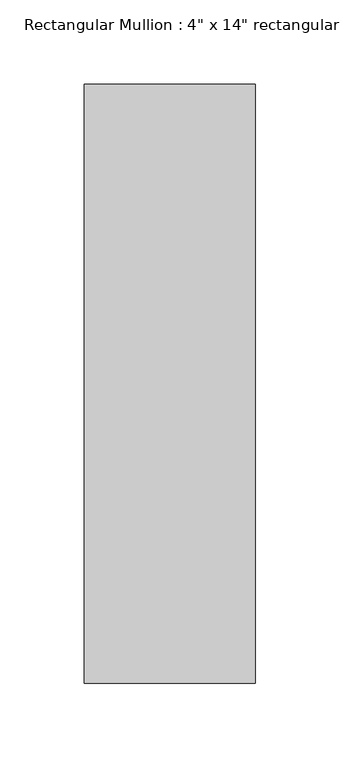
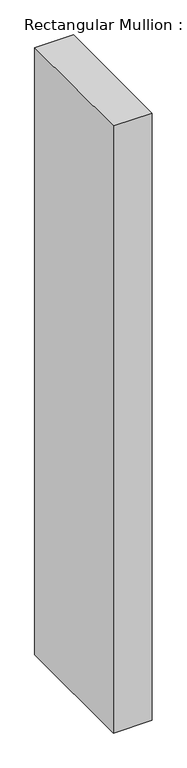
"""IFC4 building model written with IfcOpenShell, lengths in millimetres: member geometry."""

from ifc_helpers import new_model, si_unit, frame, origin, place, context, project, spatial, polyline, outline, extrude, source, transform, mapped, element, save


def member_5021aeb0(model_context):
    return source(origin(), model_context, "Body", "SweptSolid", [
        extrude(outline(polyline([(50.8, 12.7), (50.8, -342.9), (-50.8, -342.9), (-50.8, 12.7), (50.8, 12.7)])), frame((0.0, 0.0, -1676.383875), z_axis=(0.0, 0.0, 1.0), x_axis=(1.0, 0.0, 0.0)), (0.0, 0.0, 1.0), 1676.383875),
    ])


if __name__ == "__main__":
    model = new_model("IFC4")
    model_context = context("Model", 3, world=origin())
    ifc_project = project(units=[si_unit("LENGTHUNIT", "METRE", prefix="MILLI")], contexts=[model_context])
    site = spatial("IfcSite", under=ifc_project)
    building = spatial("IfcBuilding", under=site)
    placement = place(None, origin())
    member_shape = member_5021aeb0(model_context)
    element("IfcMember", 1, ObjectType="Rectangular Mullion : 4\" x 14\" rectangular", at=placement, inside=building, context=model_context, shape_type="MappedRepresentation", body=[
        mapped(member_shape, transform((0.0, 0.0, 0.0), x_axis=(1.0, 0.0, 0.0), y_axis=(0.0, 1.0, 0.0), z_axis=(0.0, 0.0, 1.0))),
    ])
    save(model, "model.ifc")
